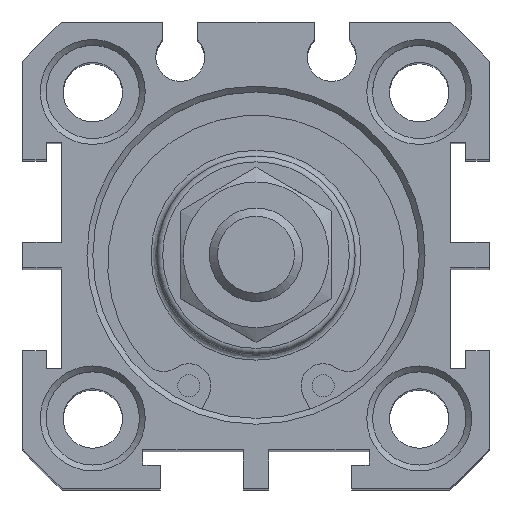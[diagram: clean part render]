
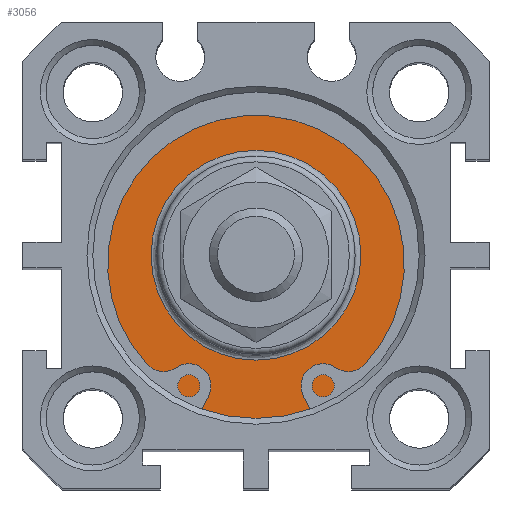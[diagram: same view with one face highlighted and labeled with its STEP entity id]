
A CAD part, top view. The second image highlights one B-rep face of the part: STEP entity #3056.
In plain terms, the highlighted planar face has unit normal (0, 0, 1).
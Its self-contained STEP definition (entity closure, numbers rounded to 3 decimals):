
#3005=CARTESIAN_POINT('',(0.12,10.914,78.3));
#3006=VERTEX_POINT('',#3005);
#3007=CARTESIAN_POINT('',(0.12,1.914,78.3));
#3008=DIRECTION('',(0.0,0.0,1.0));
#3009=DIRECTION('',(0.0,-1.0,0.0));
#3010=AXIS2_PLACEMENT_3D('',#3007,#3008,#3009);
#3011=CIRCLE('',#3010,9.);
#3012=EDGE_CURVE('',#3006,#3006,#3011,.T.);
#3037=CARTESIAN_POINT('',(0.12,13.164,78.3));
#3038=DIRECTION('',(0.0,0.0,1.0));
#3039=DIRECTION('',(1.0,0.0,0.0));
#3040=AXIS2_PLACEMENT_3D('',#3037,#3038,#3039);
#3041=PLANE('',#3040);
#3042=CARTESIAN_POINT('',(0.12,15.914,78.3));
#3043=VERTEX_POINT('',#3042);
#3044=CARTESIAN_POINT('',(0.12,1.914,78.3));
#3045=DIRECTION('',(0.0,0.0,-1.0));
#3046=DIRECTION('',(0.0,1.0,0.0));
#3047=AXIS2_PLACEMENT_3D('',#3044,#3045,#3046);
#3048=CIRCLE('',#3047,14.0);
#3049=EDGE_CURVE('',#3043,#3043,#3048,.T.);
#3050=ORIENTED_EDGE('',*,*,#3049,.F.);
#3051=EDGE_LOOP('',(#3050));
#3052=FACE_OUTER_BOUND('',#3051,.T.);
#3053=ORIENTED_EDGE('',*,*,#3012,.F.);
#3054=EDGE_LOOP('',(#3053));
#3055=FACE_BOUND('',#3054,.T.);
#3056=ADVANCED_FACE('',(#3052,#3055),#3041,.T.);
